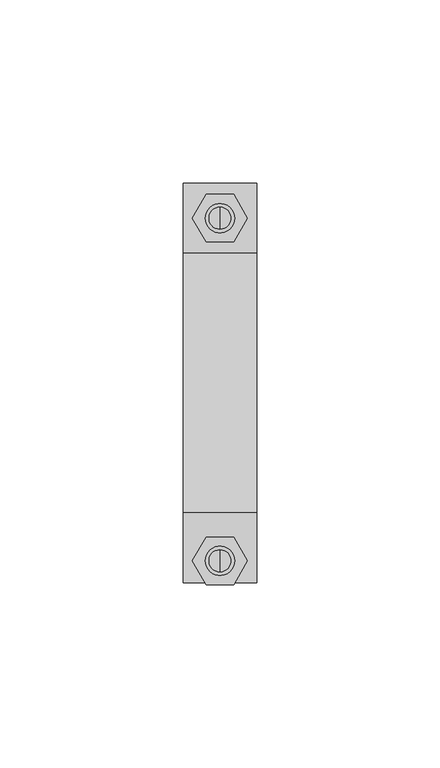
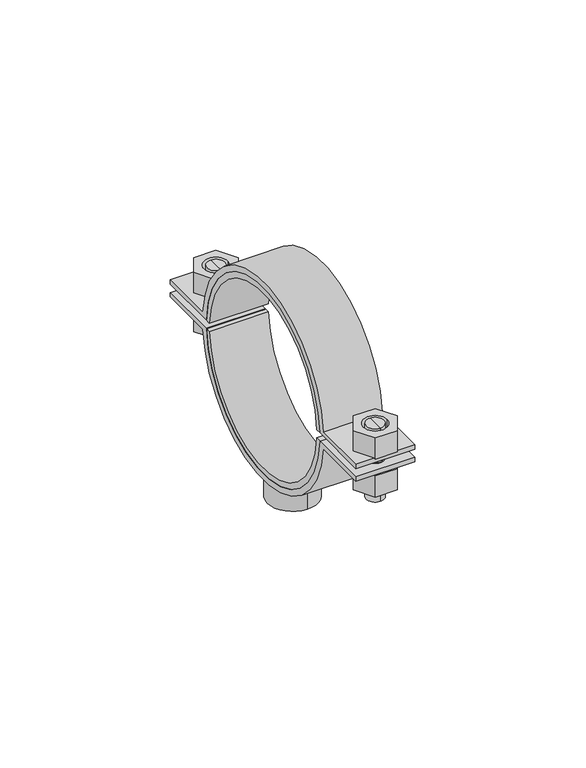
"""IFC4 building model written with IfcOpenShell, lengths in millimetres: valve geometry, Superfix DG2 Clamp Extra : Superfix DG2 Clamp Extra."""

from ifc_helpers import new_model, si_unit, point, frame, frame_2d, origin, origin_2d, place, context, project, spatial, polyline, circle_curve, trimmed, segment, composite_curve, outline, extrude, source, transform, mapped, element, save
from ifc_brep_helpers import plane_surface, cylinder_surface, advanced_brep


def valve_0e5aea03(model_context):
    return source(origin(), model_context, "Body", "SolidModel", [
        advanced_brep(
        [(0.0, 48.0, 334.4), (0.0, 42.0, 334.4), (0.0, 42.0, 348.5), (0.0, 48.0, 348.5), (0.0, 45.0, 334.4)],
        [
            (0, 1, circle_curve(frame((0.0, 45.0, 334.4), z_axis=(0.0, 0.0, 1.0), x_axis=(0.0, 1.0, 0.0)), 3.0)),
            (1, 2),
            (2, 3, circle_curve(frame((0.0, 45.0, 348.5), z_axis=(0.0, 0.0, -1.0), x_axis=(0.0, 1.0, 0.0)), 3.0)),
            (3, 0),
            (1, 0, circle_curve(frame((0.0, 45.0, 334.4), z_axis=(0.0, 0.0, 1.0), x_axis=(0.0, 1.0, 0.0)), 3.0)),
            (3, 2, circle_curve(frame((0.0, 45.0, 348.5), z_axis=(0.0, 0.0, -1.0), x_axis=(0.0, 1.0, 0.0)), 3.0)),
            (0, 4),
            (4, 1),
        ],
        [
            cylinder_surface(frame((0.0, 45.0, 348.2806094), z_axis=(0.0, 0.0, 1.0), x_axis=(0.0, 1.0, 0.0)), 3.0),
            plane_surface(frame((0.0, 45.0, 334.4), z_axis=(0.0, 0.0, -1.0), x_axis=(0.0, 1.0, 0.0))),
            plane_surface(frame((13.75, -54.5, 348.5), z_axis=(0.0, 0.0, 1.0), x_axis=(-1.0, 0.0, 0.0))),
        ],
        [
            (0, [[1, 2, 3, 4]]),
            (0, [[5, -4, 6, -2]]),
            (1, [[-1, 7, 8]]),
            (1, [[-5, -8, -7]]),
            (2, [[-3, -6]]),
        ],
    ),
        advanced_brep(
        [(0.0, 42.0, 360.6), (0.0, 48.0, 360.6), (0.0, 48.0, 351.5), (0.0, 42.0, 351.5), (0.0, 45.0, 360.6)],
        [
            (0, 1, circle_curve(frame((0.0, 45.0, 360.6), z_axis=(0.0, 0.0, -1.0), x_axis=(0.0, 1.0, 0.0)), 3.0)),
            (1, 2),
            (2, 3, circle_curve(frame((0.0, 45.0, 351.5), z_axis=(0.0, 0.0, 1.0), x_axis=(0.0, 1.0, 0.0)), 3.0)),
            (3, 0),
            (1, 0, circle_curve(frame((0.0, 45.0, 360.6), z_axis=(0.0, 0.0, -1.0), x_axis=(0.0, 1.0, 0.0)), 3.0)),
            (3, 2, circle_curve(frame((0.0, 45.0, 351.5), z_axis=(0.0, 0.0, 1.0), x_axis=(0.0, 1.0, 0.0)), 3.0)),
            (0, 4),
            (4, 1),
        ],
        [
            cylinder_surface(frame((0.0, 45.0, 348.2806094), z_axis=(0.0, 0.0, 1.0), x_axis=(0.0, 1.0, 0.0)), 3.0),
            plane_surface(frame((0.0, 45.0, 360.6), z_axis=(0.0, 0.0, 1.0), x_axis=(0.0, 1.0, 0.0))),
            plane_surface(frame((13.75, 54.5, 351.5), z_axis=(0.0, 0.0, -1.0), x_axis=(-1.0, 0.0, 0.0))),
        ],
        [
            (0, [[1, 2, 3, 4]]),
            (0, [[5, -4, 6, -2]]),
            (1, [[-1, 7, 8]]),
            (1, [[-5, -8, -7]]),
            (2, [[-3, -6]]),
        ],
    ),
        advanced_brep(
        [(0.0, -51.5, 360.6), (0.0, -45.5, 360.6), (0.0, -45.5, 351.5), (0.0, -51.5, 351.5), (0.0, -48.5, 360.6)],
        [
            (0, 1, circle_curve(frame((0.0, -48.5, 360.6), z_axis=(0.0, 0.0, -1.0), x_axis=(0.0, -1.0, 0.0)), 3.0)),
            (1, 2),
            (2, 3, circle_curve(frame((0.0, -48.5, 351.5), z_axis=(0.0, 0.0, 1.0), x_axis=(0.0, -1.0, 0.0)), 3.0)),
            (3, 0),
            (1, 0, circle_curve(frame((0.0, -48.5, 360.6), z_axis=(0.0, 0.0, -1.0), x_axis=(0.0, -1.0, 0.0)), 3.0)),
            (3, 2, circle_curve(frame((0.0, -48.5, 351.5), z_axis=(0.0, 0.0, 1.0), x_axis=(0.0, -1.0, 0.0)), 3.0)),
            (0, 4),
            (4, 1),
        ],
        [
            cylinder_surface(frame((0.0, -48.5, 348.2806094), z_axis=(0.0, 0.0, -1.0), x_axis=(0.0, -1.0, 0.0)), 3.0),
            plane_surface(frame((0.0, -48.5, 360.6), z_axis=(0.0, 0.0, 1.0), x_axis=(0.0, -1.0, 0.0))),
            plane_surface(frame((13.75, 54.5, 351.5), z_axis=(0.0, 0.0, -1.0), x_axis=(-1.0, 0.0, 0.0))),
        ],
        [
            (0, [[1, 2, 3, 4]]),
            (0, [[5, -4, 6, -2]]),
            (1, [[-1, 7, 8]]),
            (1, [[-5, -8, -7]]),
            (2, [[-3, -6]]),
        ],
    ),
        advanced_brep(
        [(0.0, -45.5, 334.4), (0.0, -51.5, 334.4), (0.0, -51.5, 348.5), (0.0, -45.5, 348.5), (0.0, -48.5, 334.4)],
        [
            (0, 1, circle_curve(frame((0.0, -48.5, 334.4), z_axis=(0.0, 0.0, 1.0), x_axis=(0.0, -1.0, 0.0)), 3.0)),
            (1, 2),
            (2, 3, circle_curve(frame((0.0, -48.5, 348.5), z_axis=(0.0, 0.0, -1.0), x_axis=(0.0, -1.0, 0.0)), 3.0)),
            (3, 0),
            (1, 0, circle_curve(frame((0.0, -48.5, 334.4), z_axis=(0.0, 0.0, 1.0), x_axis=(0.0, -1.0, 0.0)), 3.0)),
            (3, 2, circle_curve(frame((0.0, -48.5, 348.5), z_axis=(0.0, 0.0, -1.0), x_axis=(0.0, -1.0, 0.0)), 3.0)),
            (0, 4),
            (4, 1),
        ],
        [
            cylinder_surface(frame((0.0, -48.5, 348.2806094), z_axis=(0.0, 0.0, -1.0), x_axis=(0.0, -1.0, 0.0)), 3.0),
            plane_surface(frame((0.0, -48.5, 334.4), z_axis=(0.0, 0.0, -1.0), x_axis=(0.0, -1.0, 0.0))),
            plane_surface(frame((13.75, -54.5, 348.5), z_axis=(0.0, 0.0, 1.0), x_axis=(-1.0, 0.0, 0.0))),
        ],
        [
            (0, [[1, 2, 3, 4]]),
            (0, [[5, -4, 6, -2]]),
            (1, [[-1, 7, 8]]),
            (1, [[-5, -8, -7]]),
            (2, [[-3, -6]]),
        ],
    ),
        extrude(outline(composite_curve([segment(trimmed(circle_curve(frame_2d((0.0, 350.0)), 33.5), [point((-33.4664011, 348.5))], [point((33.4664011, 348.5))], True, "CARTESIAN"), True, "CONTINUOUS"), segment(polyline([(33.4664011, 348.5), (54.5, 348.5), (54.5, 347.0), (35.3730123, 347.0)]), True, "CONTINUOUS"), segment(trimmed(circle_curve(frame_2d((0.0, 350.0)), 35.5), [point((35.3730123, 347.0))], [point((-35.3730123, 347.0))], False, "CARTESIAN"), True, "CONTINUOUS"), segment(polyline([(-35.3730123, 347.0), (-54.5, 347.0), (-54.5, 348.5), (-33.4664011, 348.5)]), True, "CONTINUOUS")], self_intersect=False)), frame((-10.0, 0.0, 0.0), z_axis=(1.0, 0.0, 0.0), x_axis=(0.0, 1.0, 0.0)), (0.0, 0.0, 1.0), 20.0),
        extrude(outline(composite_curve([segment(trimmed(circle_curve(frame_2d((0.0, 350.0)), 33.5), [point((33.4664011, 351.5))], [point((-33.4664011, 351.5))], True, "CARTESIAN"), True, "CONTINUOUS"), segment(polyline([(-33.4664011, 351.5), (-54.5, 351.5), (-54.5, 353.0), (-35.3730123, 353.0)]), True, "CONTINUOUS"), segment(trimmed(circle_curve(frame_2d((0.0, 350.0)), 35.5), [point((-35.3730123, 353.0))], [point((35.3730123, 353.0))], False, "CARTESIAN"), True, "CONTINUOUS"), segment(polyline([(35.3730123, 353.0), (54.5, 353.0), (54.5, 351.5), (33.4664011, 351.5)]), True, "CONTINUOUS")], self_intersect=False)), frame((-10.0, 0.0, 0.0), z_axis=(1.0, 0.0, 0.0), x_axis=(0.0, 1.0, 0.0)), (0.0, 0.0, 1.0), 20.0),
        extrude(outline(polyline([(7.5055535, -48.5), (3.7527767, -55.0), (-3.7527767, -55.0), (-7.5055535, -48.5), (-3.7527767, -42.0), (3.7527767, -42.0), (7.5055535, -48.5)]), holes=[composite_curve([segment(trimmed(circle_curve(frame_2d((0.0, -48.5)), 4.0), [point((4.0, -48.5))], [point((-4.0, -48.5))], True, "CARTESIAN"), True, "CONTINUOUS"), segment(trimmed(circle_curve(frame_2d((0.0, -48.5)), 4.0), [point((-4.0, -48.5))], [point((4.0, -48.5))], True, "CARTESIAN"), True, "CONTINUOUS")], self_intersect=False)]), frame((0.0, 0.0, 353.0), z_axis=(0.0, 0.0, 1.0), x_axis=(1.0, 0.0, 0.0)), (0.0, 0.0, 1.0), 7.6),
        extrude(outline(polyline([(7.5055535, 45.0), (3.7527767, 38.5), (-3.7527767, 38.5), (-7.5055535, 45.0), (-3.7527767, 51.5), (3.7527767, 51.5), (7.5055535, 45.0)]), holes=[composite_curve([segment(trimmed(circle_curve(frame_2d((0.0, 45.0)), 4.0), [point((4.0, 45.0))], [point((-4.0, 45.0))], True, "CARTESIAN"), True, "CONTINUOUS"), segment(trimmed(circle_curve(frame_2d((0.0, 45.0)), 4.0), [point((-4.0, 45.0))], [point((4.0, 45.0))], True, "CARTESIAN"), True, "CONTINUOUS")], self_intersect=False)]), frame((0.0, 0.0, 353.0), z_axis=(0.0, 0.0, 1.0), x_axis=(1.0, 0.0, 0.0)), (0.0, 0.0, 1.0), 7.6),
        extrude(outline(polyline([(7.5055535, -48.5), (3.7527767, -55.0), (-3.7527767, -55.0), (-7.5055535, -48.5), (-3.7527767, -42.0), (3.7527767, -42.0), (7.5055535, -48.5)]), holes=[composite_curve([segment(trimmed(circle_curve(frame_2d((0.0, -48.5)), 4.0), [point((4.0, -48.5))], [point((-4.0, -48.5))], True, "CARTESIAN"), True, "CONTINUOUS"), segment(trimmed(circle_curve(frame_2d((0.0, -48.5)), 4.0), [point((-4.0, -48.5))], [point((4.0, -48.5))], True, "CARTESIAN"), True, "CONTINUOUS")], self_intersect=False)]), frame((0.0, 0.0, 339.4), z_axis=(0.0, 0.0, 1.0), x_axis=(1.0, 0.0, 0.0)), (0.0, 0.0, 1.0), 7.6),
        extrude(outline(polyline([(7.5055535, 45.0), (3.7527767, 38.5), (-3.7527767, 38.5), (-7.5055535, 45.0), (-3.7527767, 51.5), (3.7527767, 51.5), (7.5055535, 45.0)]), holes=[composite_curve([segment(trimmed(circle_curve(frame_2d((0.0, 45.0)), 4.0), [point((4.0, 45.0))], [point((-4.0, 45.0))], True, "CARTESIAN"), True, "CONTINUOUS"), segment(trimmed(circle_curve(frame_2d((0.0, 45.0)), 4.0), [point((-4.0, 45.0))], [point((4.0, 45.0))], True, "CARTESIAN"), True, "CONTINUOUS")], self_intersect=False)]), frame((0.0, 0.0, 339.4), z_axis=(0.0, 0.0, 1.0), x_axis=(1.0, 0.0, 0.0)), (0.0, 0.0, 1.0), 7.6),
        extrude(outline(composite_curve([segment(trimmed(circle_curve(origin_2d(), 8.5), [point((0.0, 8.5))], [point((0.0, -8.5))], False, "CARTESIAN"), True, "CONTINUOUS"), segment(trimmed(circle_curve(origin_2d(), 8.5), [point((0.0, -8.5))], [point((0.0, 8.5))], False, "CARTESIAN"), True, "CONTINUOUS")], self_intersect=False), holes=[composite_curve([segment(trimmed(circle_curve(origin_2d(), 5.0), [point((0.0, 5.0))], [point((0.0, -5.0))], True, "CARTESIAN"), True, "CONTINUOUS"), segment(trimmed(circle_curve(origin_2d(), 5.0), [point((0.0, -5.0))], [point((0.0, 5.0))], True, "CARTESIAN"), True, "CONTINUOUS")], self_intersect=False)]), frame((0.0, 0.0, 305.5), z_axis=(0.0, 0.0, 1.0), x_axis=(1.0, 0.0, 0.0)), (0.0, 0.0, 1.0), 11.5),
        extrude(outline(composite_curve([segment(trimmed(circle_curve(frame_2d((0.0, 350.0)), 31.5), [point((31.4642654, 351.5))], [point((-31.4642654, 351.5))], True, "CARTESIAN"), True, "CONTINUOUS"), segment(polyline([(-31.4642654, 351.5), (-33.4664011, 351.5)]), True, "CONTINUOUS"), segment(trimmed(circle_curve(frame_2d((0.0, 350.0)), 33.5), [point((-33.4664011, 351.5))], [point((33.4664011, 351.5))], False, "CARTESIAN"), True, "CONTINUOUS"), segment(polyline([(33.4664011, 351.5), (31.4642654, 351.5)]), True, "CONTINUOUS")], self_intersect=False)), frame((-10.0, 0.0, 0.0), z_axis=(1.0, 0.0, 0.0), x_axis=(0.0, 1.0, 0.0)), (0.0, 0.0, 1.0), 20.0),
        extrude(outline(composite_curve([segment(polyline([(31.4642654, 348.5), (33.4664011, 348.5)]), True, "CONTINUOUS"), segment(trimmed(circle_curve(frame_2d((0.0, 350.0)), 33.5), [point((33.4664011, 348.5))], [point((-33.4664011, 348.5))], False, "CARTESIAN"), True, "CONTINUOUS"), segment(polyline([(-33.4664011, 348.5), (-31.4642654, 348.5)]), True, "CONTINUOUS"), segment(trimmed(circle_curve(frame_2d((0.0, 350.0)), 31.5), [point((-31.4642654, 348.5))], [point((31.4642654, 348.5))], True, "CARTESIAN"), True, "CONTINUOUS")], self_intersect=False)), frame((-10.0, 0.0, 0.0), z_axis=(1.0, 0.0, 0.0), x_axis=(0.0, 1.0, 0.0)), (0.0, 0.0, 1.0), 20.0),
    ])


if __name__ == "__main__":
    model = new_model("IFC4")
    model_context = context("Model", 3, world=origin())
    ifc_project = project(units=[si_unit("LENGTHUNIT", "METRE", prefix="MILLI")], contexts=[model_context])
    site = spatial("IfcSite", under=ifc_project)
    building = spatial("IfcBuilding", under=site)
    placement = place(None, origin())
    valve_shape = valve_0e5aea03(model_context)
    element("IfcValve", 1, ObjectType="Superfix DG2 Clamp Extra : Superfix DG2 Clamp Extra", at=placement, inside=building, context=model_context, shape_type="MappedRepresentation", body=[
        mapped(valve_shape, transform((0.0, 0.0, 0.0), x_axis=(1.0, 0.0, 0.0), y_axis=(0.0, 1.0, 0.0), z_axis=(0.0, 0.0, 1.0))),
    ])
    save(model, "model.ifc")
